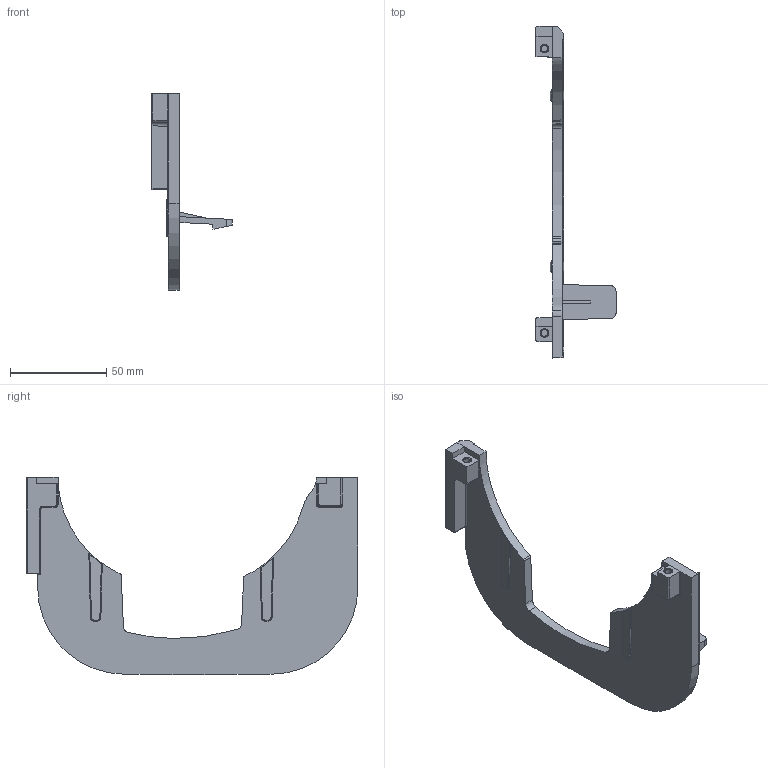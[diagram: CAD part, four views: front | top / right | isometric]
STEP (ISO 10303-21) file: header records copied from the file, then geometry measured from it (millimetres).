
FILE_DESCRIPTION (( 'STEP AP214' ), '1' );
FILE_NAME ('P-00146 - Interface Flange Right - v2.2.6_Default Configuration.STEP', '2026-06-12T21:53:26', ( '' ), ( '' ), 'SwSTEP 2.0', 'SolidWorks 2023', '' );
FILE_SCHEMA (( 'AUTOMOTIVE_DESIGN' ));
Length unit declared in the file: inch
Products named in the file (1): P-00146 - Interface Flange Right - v2.2.6_Default Configuration
Bounding box: 41.5 x 172 x 102.2 mm (x, y, z)
Volume: 50013.8 mm3; surface area: 24439.1 mm2
Topology: 1 solids, 1 shells, 217 faces, 547 edges, 338 vertices
Faces by surface type: bspline 112, plane 48, cylinder 38, torus 9, cone 9, sphere 1
Entity records: 9344 total; most frequent: CARTESIAN_POINT 4969, ORIENTED_EDGE 1092, DIRECTION 625, EDGE_CURVE 546, VERTEX_POINT 338, EDGE_LOOP 224, ADVANCED_FACE 217, FACE_OUTER_BOUND 217
